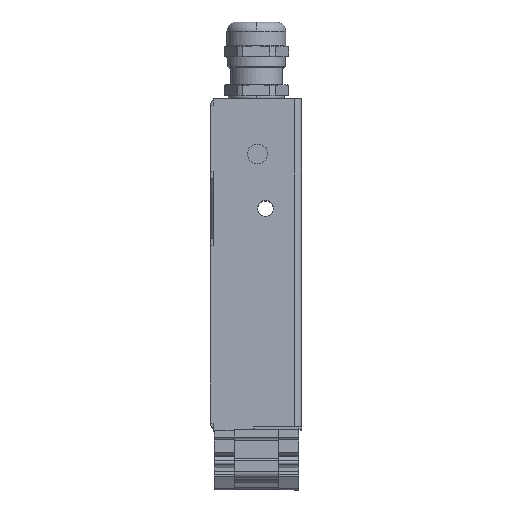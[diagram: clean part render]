
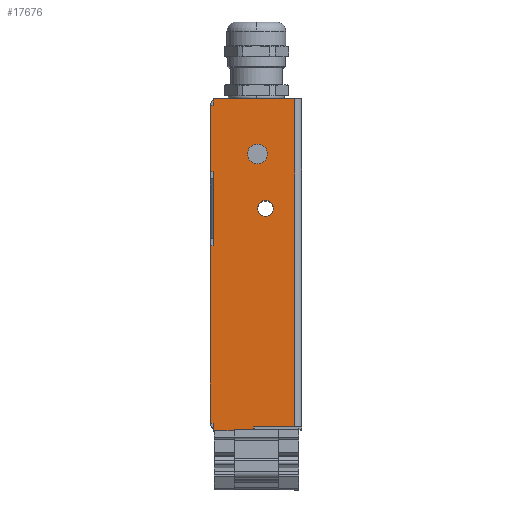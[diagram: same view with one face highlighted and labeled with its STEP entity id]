
A CAD part, top view. The second image highlights one B-rep face of the part: STEP entity #17676.
In plain terms, the highlighted planar face has unit normal (0, 0, 1).
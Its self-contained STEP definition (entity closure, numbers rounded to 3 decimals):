
#1002=DIRECTION('',(0.,-1.,0.));
#1003=VECTOR('',#1002,18.);
#1004=CARTESIAN_POINT('',(-12.5,88.2,48.));
#1005=LINE('',#1004,#1003);
#1010=DIRECTION('',(0.,-1.,0.));
#1011=VECTOR('',#1010,48.2);
#1012=CARTESIAN_POINT('',(-12.5,50.,48.));
#1013=LINE('',#1012,#1011);
#1376=DIRECTION('',(0.,-1.,0.));
#1377=VECTOR('',#1376,20.2);
#1378=CARTESIAN_POINT('',(-11.7,70.2,48.));
#1379=LINE('',#1378,#1377);
#1384=DIRECTION('',(-1.,0.,0.));
#1385=VECTOR('',#1384,0.8);
#1386=CARTESIAN_POINT('',(-11.7,50.,48.));
#1387=LINE('',#1386,#1385);
#1396=DIRECTION('',(1.,0.,0.));
#1397=VECTOR('',#1396,22.2);
#1398=CARTESIAN_POINT('',(-11.7,90.,48.));
#1399=LINE('',#1398,#1397);
#1400=CARTESIAN_POINT('',(2.5,60.2,48.));
#1401=DIRECTION('',(0.,0.,1.));
#1402=DIRECTION('',(0.,1.,0.));
#1403=AXIS2_PLACEMENT_3D('',#1400,#1401,#1402);
#1405=CARTESIAN_POINT('',(2.5,60.2,48.));
#1406=DIRECTION('',(0.,0.,1.));
#1407=DIRECTION('',(0.,-1.,0.));
#1408=AXIS2_PLACEMENT_3D('',#1405,#1406,#1407);
#1410=CARTESIAN_POINT('',(0.3,75.,48.));
#1411=DIRECTION('',(0.,0.,1.));
#1412=DIRECTION('',(0.,1.,0.));
#1413=AXIS2_PLACEMENT_3D('',#1410,#1411,#1412);
#1415=CARTESIAN_POINT('',(0.3,75.,48.));
#1416=DIRECTION('',(0.,0.,1.));
#1417=DIRECTION('',(0.,-1.,0.));
#1418=AXIS2_PLACEMENT_3D('',#1415,#1416,#1417);
#1432=DIRECTION('',(1.,0.,0.));
#1433=VECTOR('',#1432,0.8);
#1434=CARTESIAN_POINT('',(-12.5,70.2,48.));
#1435=LINE('',#1434,#1433);
#2125=DIRECTION('',(0.,1.,0.));
#2126=VECTOR('',#2125,0.3);
#2127=CARTESIAN_POINT('',(-6.,-0.3,48.));
#2128=LINE('',#2127,#2126);
#2326=DIRECTION('',(0.,-1.,0.));
#2327=VECTOR('',#2326,2.1);
#2328=CARTESIAN_POINT('',(-11.7,1.8,48.));
#2329=LINE('',#2328,#2327);
#2342=DIRECTION('',(1.,0.,0.));
#2343=VECTOR('',#2342,0.8);
#2344=CARTESIAN_POINT('',(-12.5,1.8,48.));
#2345=LINE('',#2344,#2343);
#2354=DIRECTION('',(1.,0.,0.));
#2355=VECTOR('',#2354,5.7);
#2356=CARTESIAN_POINT('',(-11.7,-0.3,48.));
#2357=LINE('',#2356,#2355);
#2358=DIRECTION('',(1.,0.,0.));
#2359=VECTOR('',#2358,5.3);
#2360=CARTESIAN_POINT('',(-6.,0.,48.));
#2361=LINE('',#2360,#2359);
#2370=DIRECTION('',(0.,1.,0.));
#2371=VECTOR('',#2370,0.8);
#2372=CARTESIAN_POINT('',(-0.7,0.,48.));
#2373=LINE('',#2372,#2371);
#2378=DIRECTION('',(1.,0.,0.));
#2379=VECTOR('',#2378,0.2);
#2380=CARTESIAN_POINT('',(-0.7,0.8,48.));
#2381=LINE('',#2380,#2379);
#2423=DIRECTION('',(1.,0.,0.));
#2424=VECTOR('',#2423,11.);
#2425=CARTESIAN_POINT('',(-0.5,0.8,48.));
#2426=LINE('',#2425,#2424);
#2427=DIRECTION('',(0.,1.,0.));
#2428=VECTOR('',#2427,89.2);
#2429=CARTESIAN_POINT('',(10.5,0.8,48.));
#2430=LINE('',#2429,#2428);
#12490=DIRECTION('',(-1.,0.,0.));
#12491=VECTOR('',#12490,0.8);
#12492=CARTESIAN_POINT('',(-11.7,88.2,48.));
#12493=LINE('',#12492,#12491);
#12506=DIRECTION('',(0.,-1.,0.));
#12507=VECTOR('',#12506,1.8);
#12508=CARTESIAN_POINT('',(-11.7,90.,48.));
#12509=LINE('',#12508,#12507);
#13108=CARTESIAN_POINT('',(10.5,90.,48.));
#13109=VERTEX_POINT('',#13108);
#13110=CARTESIAN_POINT('',(-11.7,90.,48.));
#13111=VERTEX_POINT('',#13110);
#14800=CARTESIAN_POINT('',(2.5,62.35,48.));
#14801=CARTESIAN_POINT('',(2.5,58.05,48.));
#14802=VERTEX_POINT('',#14800);
#14803=VERTEX_POINT('',#14801);
#14804=CARTESIAN_POINT('',(0.3,77.7,48.));
#14805=CARTESIAN_POINT('',(0.3,72.3,48.));
#14806=VERTEX_POINT('',#14804);
#14807=VERTEX_POINT('',#14805);
#14808=CARTESIAN_POINT('',(-12.5,88.2,48.));
#14809=CARTESIAN_POINT('',(-12.5,70.2,48.));
#14810=VERTEX_POINT('',#14808);
#14811=VERTEX_POINT('',#14809);
#14812=CARTESIAN_POINT('',(-11.7,88.2,48.));
#14813=VERTEX_POINT('',#14812);
#14814=CARTESIAN_POINT('',(10.5,0.8,48.));
#14815=VERTEX_POINT('',#14814);
#14816=CARTESIAN_POINT('',(-12.5,50.,48.));
#14817=CARTESIAN_POINT('',(-12.5,1.8,48.));
#14818=VERTEX_POINT('',#14816);
#14819=VERTEX_POINT('',#14817);
#15054=CARTESIAN_POINT('',(-0.5,0.8,48.));
#15055=VERTEX_POINT('',#15054);
#15162=CARTESIAN_POINT('',(-6.,0.,48.));
#15163=CARTESIAN_POINT('',(-0.7,0.,48.));
#15164=VERTEX_POINT('',#15162);
#15165=VERTEX_POINT('',#15163);
#15176=CARTESIAN_POINT('',(-11.7,70.2,48.));
#15177=CARTESIAN_POINT('',(-11.7,50.,48.));
#15178=VERTEX_POINT('',#15176);
#15179=VERTEX_POINT('',#15177);
#15180=CARTESIAN_POINT('',(-11.7,1.8,48.));
#15181=CARTESIAN_POINT('',(-11.7,-0.3,48.));
#15182=VERTEX_POINT('',#15180);
#15183=VERTEX_POINT('',#15181);
#15306=CARTESIAN_POINT('',(-6.,-0.3,48.));
#15307=VERTEX_POINT('',#15306);
#15652=CARTESIAN_POINT('',(-0.7,0.8,48.));
#15653=VERTEX_POINT('',#15652);
#17628=CARTESIAN_POINT('',(-1.,44.85,48.));
#17629=DIRECTION('',(0.,0.,1.));
#17630=DIRECTION('',(0.,1.,0.));
#17631=AXIS2_PLACEMENT_3D('',#17628,#17629,#17630);
#17632=PLANE('',#17631);
#17633=ORIENTED_EDGE('',*,*,#17607,.F.);
#17635=ORIENTED_EDGE('',*,*,#17634,.F.);
#17636=ORIENTED_EDGE('',*,*,#17142,.F.);
#17638=ORIENTED_EDGE('',*,*,#17637,.F.);
#17640=ORIENTED_EDGE('',*,*,#17639,.F.);
#17641=ORIENTED_EDGE('',*,*,#16931,.T.);
#17643=ORIENTED_EDGE('',*,*,#17642,.F.);
#17645=ORIENTED_EDGE('',*,*,#17644,.F.);
#17647=ORIENTED_EDGE('',*,*,#17646,.F.);
#17649=ORIENTED_EDGE('',*,*,#17648,.F.);
#17651=ORIENTED_EDGE('',*,*,#17650,.F.);
#17653=ORIENTED_EDGE('',*,*,#17652,.F.);
#17655=ORIENTED_EDGE('',*,*,#17654,.F.);
#17657=ORIENTED_EDGE('',*,*,#17656,.F.);
#17659=ORIENTED_EDGE('',*,*,#17658,.F.);
#17660=ORIENTED_EDGE('',*,*,#17154,.F.);
#17661=ORIENTED_EDGE('',*,*,#17618,.F.);
#17662=EDGE_LOOP('',(#17633,#17635,#17636,#17638,#17640,#17641,#17643,#17645,
#17647,#17649,#17651,#17653,#17655,#17657,#17659,#17660,#17661));
#17663=FACE_OUTER_BOUND('',#17662,.F.);
#17665=ORIENTED_EDGE('',*,*,#17664,.T.);
#17667=ORIENTED_EDGE('',*,*,#17666,.T.);
#17668=EDGE_LOOP('',(#17665,#17667));
#17669=FACE_BOUND('',#17668,.F.);
#17671=ORIENTED_EDGE('',*,*,#17670,.T.);
#17673=ORIENTED_EDGE('',*,*,#17672,.T.);
#17674=EDGE_LOOP('',(#17671,#17673));
#17675=FACE_BOUND('',#17674,.F.);
#17676=ADVANCED_FACE('',(#17663,#17669,#17675),#17632,.T.);
#1404=CIRCLE('',#1403,2.15);
#1409=CIRCLE('',#1408,2.15);
#1414=CIRCLE('',#1413,2.7);
#1419=CIRCLE('',#1418,2.7);
#16931=EDGE_CURVE('',#13111,#13109,#1399,.T.);
#17142=EDGE_CURVE('',#14810,#14811,#1005,.T.);
#17154=EDGE_CURVE('',#14818,#14819,#1013,.T.);
#17607=EDGE_CURVE('',#15178,#15179,#1379,.T.);
#17618=EDGE_CURVE('',#15179,#14818,#1387,.T.);
#17634=EDGE_CURVE('',#14811,#15178,#1435,.T.);
#17637=EDGE_CURVE('',#14813,#14810,#12493,.T.);
#17639=EDGE_CURVE('',#13111,#14813,#12509,.T.);
#17642=EDGE_CURVE('',#14815,#13109,#2430,.T.);
#17644=EDGE_CURVE('',#15055,#14815,#2426,.T.);
#17646=EDGE_CURVE('',#15653,#15055,#2381,.T.);
#17648=EDGE_CURVE('',#15165,#15653,#2373,.T.);
#17650=EDGE_CURVE('',#15164,#15165,#2361,.T.);
#17652=EDGE_CURVE('',#15307,#15164,#2128,.T.);
#17654=EDGE_CURVE('',#15183,#15307,#2357,.T.);
#17656=EDGE_CURVE('',#15182,#15183,#2329,.T.);
#17658=EDGE_CURVE('',#14819,#15182,#2345,.T.);
#17664=EDGE_CURVE('',#14802,#14803,#1404,.T.);
#17666=EDGE_CURVE('',#14803,#14802,#1409,.T.);
#17670=EDGE_CURVE('',#14806,#14807,#1414,.T.);
#17672=EDGE_CURVE('',#14807,#14806,#1419,.T.);
